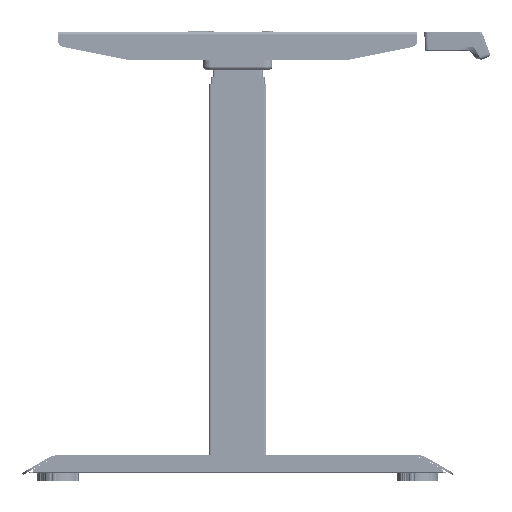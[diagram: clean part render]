
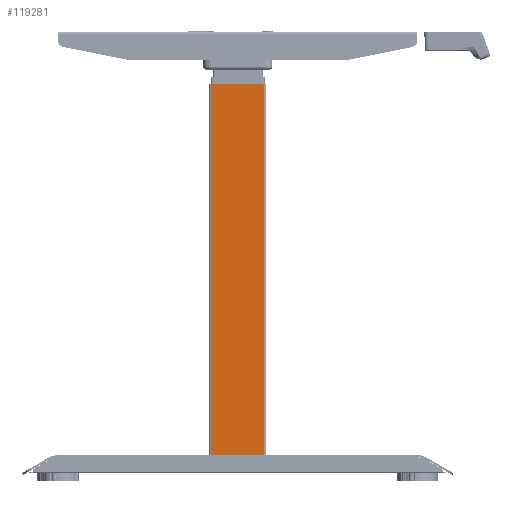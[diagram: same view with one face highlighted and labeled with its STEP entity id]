
A CAD part, front view. The second image highlights one B-rep face of the part: STEP entity #119281.
In plain terms, the highlighted planar face has unit normal (0, -1, 0).
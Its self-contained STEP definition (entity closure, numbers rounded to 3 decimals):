
#474 = EDGE_CURVE ( 'NONE', #19565, #15059, #197026, .T. ) ;
#1745 = CARTESIAN_POINT ( 'NONE',  ( 0., -25., 258. ) ) ;
#3451 = VECTOR ( 'NONE', #208231, 1000. ) ;
#11390 = VERTEX_POINT ( 'NONE', #111391 ) ;
#13852 = CARTESIAN_POINT ( 'NONE',  ( 37., -25., 0. ) ) ;
#15059 = VERTEX_POINT ( 'NONE', #202395 ) ;
#18672 = CARTESIAN_POINT ( 'NONE',  ( 37., -25., -258. ) ) ;
#19565 = VERTEX_POINT ( 'NONE', #18672 ) ;
#19622 = EDGE_CURVE ( 'NONE', #45715, #11390, #26348, .T. ) ;
#26348 = LINE ( 'NONE', #1745, #208810 ) ;
#30235 = CARTESIAN_POINT ( 'NONE',  ( 37., -25., 258. ) ) ;
#32061 = CARTESIAN_POINT ( 'NONE',  ( 0., -25., -258. ) ) ;
#45715 = VERTEX_POINT ( 'NONE', #30235 ) ;
#47180 = VECTOR ( 'NONE', #192351, 1000. ) ;
#63435 = AXIS2_PLACEMENT_3D ( 'NONE', #135414, #170955, #65084 ) ;
#65084 = DIRECTION ( 'NONE',  ( 1., 0., 0. ) ) ;
#73027 = EDGE_CURVE ( 'NONE', #15059, #11390, #133457, .T. ) ;
#79665 = ORIENTED_EDGE ( 'NONE', *, *, #73027, .F. ) ;
#90549 = EDGE_LOOP ( 'NONE', ( #217254, #79665, #174901, #215118 ) ) ;
#97530 = DIRECTION ( 'NONE',  ( 0., 0., 1. ) ) ;
#106500 = EDGE_CURVE ( 'NONE', #19565, #45715, #152258, .T. ) ;
#111391 = CARTESIAN_POINT ( 'NONE',  ( -37., -25., 258. ) ) ;
#119281 = ADVANCED_FACE ( 'NONE', ( #167233 ), #136166, .F. ) ;
#126034 = DIRECTION ( 'NONE',  ( -1., 0., 0. ) ) ;
#133457 = LINE ( 'NONE', #203453, #188726 ) ;
#135414 = CARTESIAN_POINT ( 'NONE',  ( 37., -25., 0. ) ) ;
#136166 = PLANE ( 'NONE',  #63435 ) ;
#152258 = LINE ( 'NONE', #13852, #47180 ) ;
#167233 = FACE_OUTER_BOUND ( 'NONE', #90549, .T. ) ;
#170955 = DIRECTION ( 'NONE',  ( 0., 1., 0. ) ) ;
#174901 = ORIENTED_EDGE ( 'NONE', *, *, #474, .F. ) ;
#188726 = VECTOR ( 'NONE', #97530, 1000. ) ;
#192351 = DIRECTION ( 'NONE',  ( 0., 0., 1. ) ) ;
#197026 = LINE ( 'NONE', #32061, #3451 ) ;
#202395 = CARTESIAN_POINT ( 'NONE',  ( -37., -25., -258. ) ) ;
#203453 = CARTESIAN_POINT ( 'NONE',  ( -37., -25., 0. ) ) ;
#208231 = DIRECTION ( 'NONE',  ( -1., 0., 0. ) ) ;
#208810 = VECTOR ( 'NONE', #126034, 1000. ) ;
#215118 = ORIENTED_EDGE ( 'NONE', *, *, #106500, .T. ) ;
#217254 = ORIENTED_EDGE ( 'NONE', *, *, #19622, .T. ) ;
